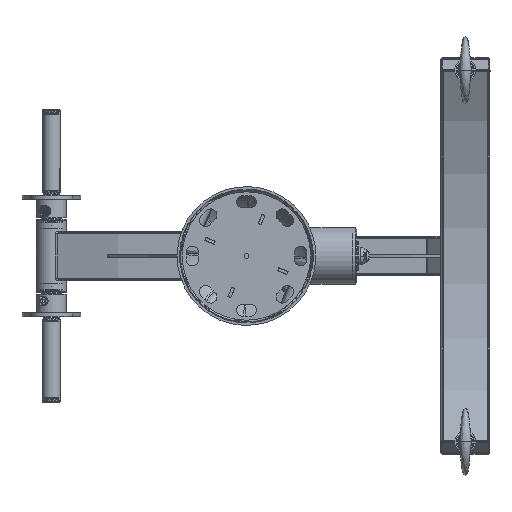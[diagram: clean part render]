
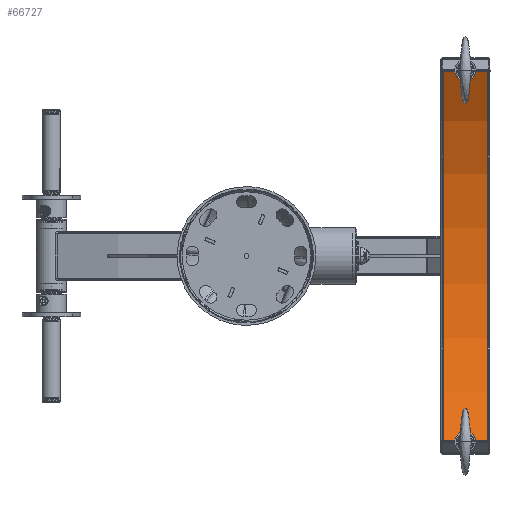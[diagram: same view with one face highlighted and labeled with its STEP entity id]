
A CAD part, front view. The second image highlights one B-rep face of the part: STEP entity #66727.
In plain terms, the highlighted cylindrical face has radius 725 mm (diameter 1450 mm), a partial arc.
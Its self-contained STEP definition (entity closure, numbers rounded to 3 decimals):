
#26 = DIRECTION ( 'NONE',  ( -1., 0., 0. ) ) ;
#826 = LINE ( 'NONE', #100714, #6957 ) ;
#4390 = ORIENTED_EDGE ( 'NONE', *, *, #23912, .T. ) ;
#6957 = VECTOR ( 'NONE', #24488, 1000. ) ;
#9409 = CARTESIAN_POINT ( 'NONE',  ( -373.951, 621.116, -45. ) ) ;
#14828 = CIRCLE ( 'NONE', #73140, 725. ) ;
#17943 = CARTESIAN_POINT ( 'NONE',  ( -373.951, 621.116, 45. ) ) ;
#18084 = CARTESIAN_POINT ( 'NONE',  ( 0., 0., -45. ) ) ;
#19188 = FACE_OUTER_BOUND ( 'NONE', #61638, .T. ) ;
#23912 = EDGE_CURVE ( 'NONE', #92172, #25578, #118592, .T. ) ;
#24488 = DIRECTION ( 'NONE',  ( 0., 0., -1. ) ) ;
#25578 = VERTEX_POINT ( 'NONE', #75367 ) ;
#34033 = ORIENTED_EDGE ( 'NONE', *, *, #57313, .T. ) ;
#37681 = LINE ( 'NONE', #39061, #121520 ) ;
#38665 = CARTESIAN_POINT ( 'NONE',  ( 373.951, 621.116, 45. ) ) ;
#39061 = CARTESIAN_POINT ( 'NONE',  ( 373.951, 621.116, -216.752 ) ) ;
#48081 = CYLINDRICAL_SURFACE ( 'NONE', #109236, 725. ) ;
#48599 = CARTESIAN_POINT ( 'NONE',  ( 0., 0., 45. ) ) ;
#53574 = AXIS2_PLACEMENT_3D ( 'NONE', #18084, #85793, #95170 ) ;
#56813 = VERTEX_POINT ( 'NONE', #17943 ) ;
#57313 = EDGE_CURVE ( 'NONE', #56813, #92172, #826, .T. ) ;
#59016 = DIRECTION ( 'NONE',  ( 0., 0., 1. ) ) ;
#61638 = EDGE_LOOP ( 'NONE', ( #94990, #34033, #4390, #88830 ) ) ;
#66727 = ADVANCED_FACE ( 'NONE', ( #19188 ), #48081, .F. ) ;
#73140 = AXIS2_PLACEMENT_3D ( 'NONE', #48599, #116806, #26 ) ;
#75367 = CARTESIAN_POINT ( 'NONE',  ( 373.951, 621.116, -45. ) ) ;
#85793 = DIRECTION ( 'NONE',  ( 0., 0., -1. ) ) ;
#88830 = ORIENTED_EDGE ( 'NONE', *, *, #89962, .T. ) ;
#89962 = EDGE_CURVE ( 'NONE', #25578, #115883, #37681, .T. ) ;
#92172 = VERTEX_POINT ( 'NONE', #9409 ) ;
#94990 = ORIENTED_EDGE ( 'NONE', *, *, #110327, .F. ) ;
#95170 = DIRECTION ( 'NONE',  ( -1., 0., 0. ) ) ;
#98838 = CARTESIAN_POINT ( 'NONE',  ( 0., 0., -216.752 ) ) ;
#100714 = CARTESIAN_POINT ( 'NONE',  ( -373.951, 621.116, -216.752 ) ) ;
#109236 = AXIS2_PLACEMENT_3D ( 'NONE', #98838, #109946, #119722 ) ;
#109946 = DIRECTION ( 'NONE',  ( 0., 0., -1. ) ) ;
#110327 = EDGE_CURVE ( 'NONE', #56813, #115883, #14828, .T. ) ;
#115883 = VERTEX_POINT ( 'NONE', #38665 ) ;
#116806 = DIRECTION ( 'NONE',  ( 0., 0., -1. ) ) ;
#118592 = CIRCLE ( 'NONE', #53574, 725. ) ;
#119722 = DIRECTION ( 'NONE',  ( -1., 0., 0. ) ) ;
#121520 = VECTOR ( 'NONE', #59016, 1000. ) ;
